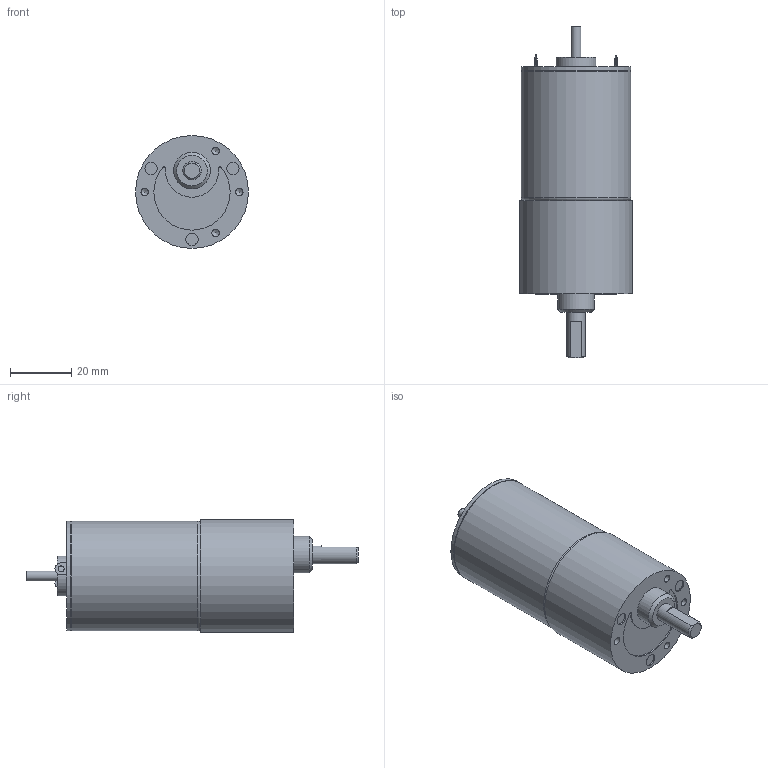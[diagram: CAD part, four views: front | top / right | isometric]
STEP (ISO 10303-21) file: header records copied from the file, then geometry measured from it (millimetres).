
FILE_DESCRIPTION((''),'2;1');
FILE_NAME('C:\Documents and Settings\SSEGAWA\デスクトップ\TP-3644L-KM-5.STP','2013-07-26T18:43:35',('SSEGAWA'),(''),'Autodesk Inventor 2010','Autodesk Inventor 2010','');
FILE_SCHEMA(('CONFIG_CONTROL_DESIGN'));
Length unit declared in the file: millimetre
Products named in the file (1): tp_3644l_km_5_Shrinkwrap_1
Bounding box: 37 x 108.8 x 37 mm (x, y, z)
Volume: 78817.9 mm3; surface area: 11922.6 mm2
Topology: 1 solids, 4 shells, 67 faces, 141 edges, 94 vertices
Faces by surface type: plane 28, cylinder 19, bspline 16, torus 2, cone 2
Full cylindrical faces by diameter (mm): 3 x1, 3.175 x1, 3.5 x1, 4 x3, 6 x1, 12 x1, 13 x1, 35.6 x1, 36 x2, 37 x1
Entity records: 1793 total; most frequent: CARTESIAN_POINT 509, DIRECTION 253, ORIENTED_EDGE 180, EDGE_LOOP 115, AXIS2_PLACEMENT_3D 113, EDGE_CURVE 90, VERTEX_POINT 75, STYLED_ITEM 68
